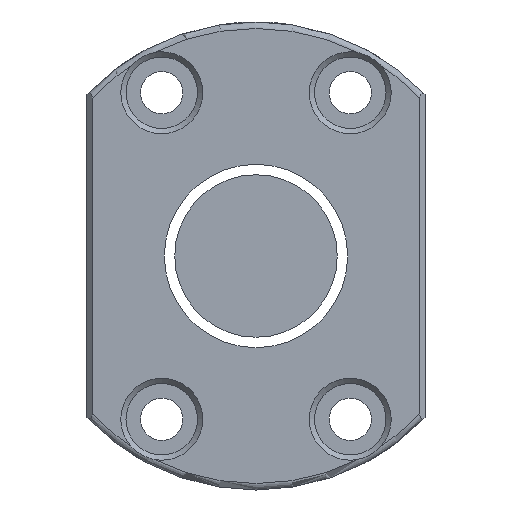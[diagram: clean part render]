
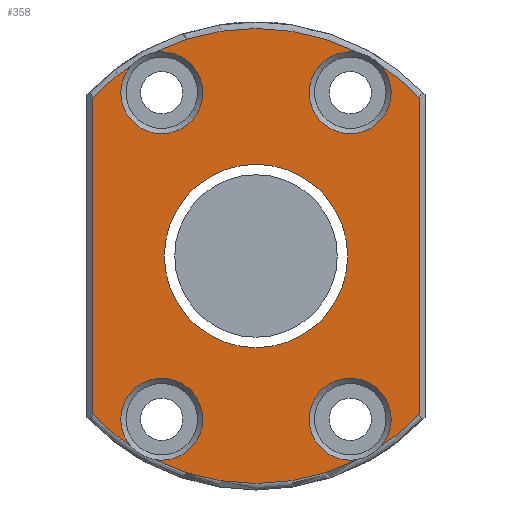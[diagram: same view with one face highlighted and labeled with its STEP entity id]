
A CAD part, left-side view. The second image highlights one B-rep face of the part: STEP entity #358.
In plain terms, the highlighted planar face has unit normal (-1, 0, 0).
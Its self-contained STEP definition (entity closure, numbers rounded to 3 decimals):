
#2 = DIRECTION ( 'NONE',  ( 0., -1., 0. ) ) ;
#107 = LINE ( 'NONE', #2327, #783 ) ;
#141 = ORIENTED_EDGE ( 'NONE', *, *, #1939, .T. ) ;
#240 = CARTESIAN_POINT ( 'NONE',  ( -130., 0., 0. ) ) ;
#272 = DIRECTION ( 'NONE',  ( 1., 0., 0. ) ) ;
#307 = AXIS2_PLACEMENT_3D ( 'NONE', #240, #2997, #1026 ) ;
#327 = CARTESIAN_POINT ( 'NONE',  ( -130., 0., 0. ) ) ;
#333 = DIRECTION ( 'NONE',  ( 1., 0., 0. ) ) ;
#358 = ADVANCED_FACE ( 'NONE', ( #500, #1238 ), #3012, .T. ) ;
#387 = VERTEX_POINT ( 'NONE', #2485 ) ;
#437 = EDGE_CURVE ( 'NONE', #387, #2918, #3074, .T. ) ;
#438 = ORIENTED_EDGE ( 'NONE', *, *, #2813, .T. ) ;
#457 = EDGE_CURVE ( 'NONE', #2442, #1069, #835, .T. ) ;
#500 = FACE_OUTER_BOUND ( 'NONE', #2309, .T. ) ;
#579 = CARTESIAN_POINT ( 'NONE',  ( -130., 14.5, 25.115 ) ) ;
#616 = ORIENTED_EDGE ( 'NONE', *, *, #1756, .T. ) ;
#639 = CARTESIAN_POINT ( 'NONE',  ( -130., 0., 0. ) ) ;
#643 = DIRECTION ( 'NONE',  ( -1., 0., 0. ) ) ;
#678 = VERTEX_POINT ( 'NONE', #1101 ) ;
#702 = ORIENTED_EDGE ( 'NONE', *, *, #3045, .T. ) ;
#738 = CIRCLE ( 'NONE', #1102, 35. ) ;
#776 = ORIENTED_EDGE ( 'NONE', *, *, #2417, .T. ) ;
#778 = DIRECTION ( 'NONE',  ( 0., -1., 0. ) ) ;
#783 = VECTOR ( 'NONE', #1588, 1000. ) ;
#785 = VECTOR ( 'NONE', #3236, 1000. ) ;
#835 = CIRCLE ( 'NONE', #949, 6.3 ) ;
#843 = DIRECTION ( 'NONE',  ( 1., 0., 0. ) ) ;
#850 = VERTEX_POINT ( 'NONE', #930 ) ;
#877 = CARTESIAN_POINT ( 'NONE',  ( -130., 0., 0. ) ) ;
#889 = CARTESIAN_POINT ( 'NONE',  ( -130., 0., 0. ) ) ;
#930 = CARTESIAN_POINT ( 'NONE',  ( -130., 15.641, -31.31 ) ) ;
#949 = AXIS2_PLACEMENT_3D ( 'NONE', #2983, #272, #1010 ) ;
#954 = AXIS2_PLACEMENT_3D ( 'NONE', #889, #2875, #3120 ) ;
#1002 = CIRCLE ( 'NONE', #1361, 35. ) ;
#1010 = DIRECTION ( 'NONE',  ( 0., -1., 0. ) ) ;
#1026 = DIRECTION ( 'NONE',  ( 0., -1., 0. ) ) ;
#1032 = DIRECTION ( 'NONE',  ( -1., 0., 0. ) ) ;
#1069 = VERTEX_POINT ( 'NONE', #1900 ) ;
#1101 = CARTESIAN_POINT ( 'NONE',  ( -130., 19.295, 29.201 ) ) ;
#1102 = AXIS2_PLACEMENT_3D ( 'NONE', #327, #1341, #1636 ) ;
#1107 = VERTEX_POINT ( 'NONE', #2349 ) ;
#1166 = AXIS2_PLACEMENT_3D ( 'NONE', #1807, #3002, #2 ) ;
#1211 = CIRCLE ( 'NONE', #954, 35. ) ;
#1238 = FACE_BOUND ( 'NONE', #2137, .T. ) ;
#1304 = AXIS2_PLACEMENT_3D ( 'NONE', #579, #333, #3113 ) ;
#1341 = DIRECTION ( 'NONE',  ( -1., 0., 0. ) ) ;
#1361 = AXIS2_PLACEMENT_3D ( 'NONE', #2725, #1032, #2990 ) ;
#1362 = EDGE_CURVE ( 'NONE', #1107, #1603, #107, .T. ) ;
#1400 = VERTEX_POINT ( 'NONE', #1860 ) ;
#1452 = CARTESIAN_POINT ( 'NONE',  ( -130., 15.641, 31.31 ) ) ;
#1497 = CARTESIAN_POINT ( 'NONE',  ( -130., -25.2, -24.289 ) ) ;
#1524 = VERTEX_POINT ( 'NONE', #2401 ) ;
#1552 = DIRECTION ( 'NONE',  ( 0., 1., 0. ) ) ;
#1558 = AXIS2_PLACEMENT_3D ( 'NONE', #1683, #2676, #2829 ) ;
#1588 = DIRECTION ( 'NONE',  ( 0., 0., -1. ) ) ;
#1603 = VERTEX_POINT ( 'NONE', #3188 ) ;
#1621 = CIRCLE ( 'NONE', #1304, 6.3 ) ;
#1632 = DIRECTION ( 'NONE',  ( 1., 0., 0. ) ) ;
#1636 = DIRECTION ( 'NONE',  ( 0., -1., 0. ) ) ;
#1649 = DIRECTION ( 'NONE',  ( 0., -1., 0. ) ) ;
#1660 = ORIENTED_EDGE ( 'NONE', *, *, #457, .T. ) ;
#1683 = CARTESIAN_POINT ( 'NONE',  ( -130., 14.5, -25.115 ) ) ;
#1756 = EDGE_CURVE ( 'NONE', #1524, #850, #1884, .T. ) ;
#1783 = EDGE_CURVE ( 'NONE', #2918, #1400, #2037, .T. ) ;
#1807 = CARTESIAN_POINT ( 'NONE',  ( -130., 0., 0. ) ) ;
#1839 = VERTEX_POINT ( 'NONE', #1452 ) ;
#1860 = CARTESIAN_POINT ( 'NONE',  ( -130., -15.641, 31.31 ) ) ;
#1866 = VERTEX_POINT ( 'NONE', #2590 ) ;
#1877 = VERTEX_POINT ( 'NONE', #1497 ) ;
#1884 = CIRCLE ( 'NONE', #1558, 6.3 ) ;
#1888 = DIRECTION ( 'NONE',  ( 0., -1., 0. ) ) ;
#1900 = CARTESIAN_POINT ( 'NONE',  ( -130., -19.295, -29.201 ) ) ;
#1903 = CARTESIAN_POINT ( 'NONE',  ( -130., -14.5, 25.115 ) ) ;
#1939 = EDGE_CURVE ( 'NONE', #1877, #387, #1982, .T. ) ;
#1982 = LINE ( 'NONE', #2952, #785 ) ;
#2037 = CIRCLE ( 'NONE', #2763, 6.3 ) ;
#2038 = ORIENTED_EDGE ( 'NONE', *, *, #3009, .T. ) ;
#2137 = EDGE_LOOP ( 'NONE', ( #2885 ) ) ;
#2309 = EDGE_LOOP ( 'NONE', ( #141, #2395, #3075, #2391, #702, #776, #2360, #3130, #616, #438, #1660, #2038 ) ) ;
#2327 = CARTESIAN_POINT ( 'NONE',  ( -130., 25.2, -24.9 ) ) ;
#2349 = CARTESIAN_POINT ( 'NONE',  ( -130., 25.2, 24.289 ) ) ;
#2360 = ORIENTED_EDGE ( 'NONE', *, *, #1362, .T. ) ;
#2391 = ORIENTED_EDGE ( 'NONE', *, *, #3183, .T. ) ;
#2395 = ORIENTED_EDGE ( 'NONE', *, *, #437, .T. ) ;
#2401 = CARTESIAN_POINT ( 'NONE',  ( -130., 19.295, -29.201 ) ) ;
#2407 = CIRCLE ( 'NONE', #1166, 35. ) ;
#2412 = EDGE_CURVE ( 'NONE', #1603, #1524, #738, .T. ) ;
#2417 = EDGE_CURVE ( 'NONE', #678, #1107, #2551, .T. ) ;
#2442 = VERTEX_POINT ( 'NONE', #2846 ) ;
#2485 = CARTESIAN_POINT ( 'NONE',  ( -130., -25.2, 24.289 ) ) ;
#2500 = CARTESIAN_POINT ( 'NONE',  ( -130., 36., 0. ) ) ;
#2551 = CIRCLE ( 'NONE', #2609, 35. ) ;
#2590 = CARTESIAN_POINT ( 'NONE',  ( -130., 14.1, 0. ) ) ;
#2609 = AXIS2_PLACEMENT_3D ( 'NONE', #877, #643, #1888 ) ;
#2676 = DIRECTION ( 'NONE',  ( 1., 0., 0. ) ) ;
#2725 = CARTESIAN_POINT ( 'NONE',  ( -130., 0., 0. ) ) ;
#2763 = AXIS2_PLACEMENT_3D ( 'NONE', #1903, #843, #1649 ) ;
#2799 = CARTESIAN_POINT ( 'NONE',  ( -130., -19.295, 29.201 ) ) ;
#2813 = EDGE_CURVE ( 'NONE', #850, #2442, #1002, .T. ) ;
#2829 = DIRECTION ( 'NONE',  ( 0., -1., 0. ) ) ;
#2846 = CARTESIAN_POINT ( 'NONE',  ( -130., -15.641, -31.31 ) ) ;
#2875 = DIRECTION ( 'NONE',  ( -1., 0., 0. ) ) ;
#2885 = ORIENTED_EDGE ( 'NONE', *, *, #3013, .T. ) ;
#2918 = VERTEX_POINT ( 'NONE', #2799 ) ;
#2952 = CARTESIAN_POINT ( 'NONE',  ( -130., -25.2, 24.9 ) ) ;
#2983 = CARTESIAN_POINT ( 'NONE',  ( -130., -14.5, -25.115 ) ) ;
#2990 = DIRECTION ( 'NONE',  ( 0., -1., 0. ) ) ;
#2997 = DIRECTION ( 'NONE',  ( -1., 0., 0. ) ) ;
#3002 = DIRECTION ( 'NONE',  ( -1., 0., 0. ) ) ;
#3009 = EDGE_CURVE ( 'NONE', #1069, #1877, #1211, .T. ) ;
#3012 = PLANE ( 'NONE',  #3091 ) ;
#3013 = EDGE_CURVE ( 'NONE', #1866, #1866, #3137, .T. ) ;
#3028 = AXIS2_PLACEMENT_3D ( 'NONE', #639, #1632, #1552 ) ;
#3045 = EDGE_CURVE ( 'NONE', #1839, #678, #1621, .T. ) ;
#3074 = CIRCLE ( 'NONE', #307, 35. ) ;
#3075 = ORIENTED_EDGE ( 'NONE', *, *, #1783, .T. ) ;
#3091 = AXIS2_PLACEMENT_3D ( 'NONE', #2500, #3233, #778 ) ;
#3113 = DIRECTION ( 'NONE',  ( 0., -1., 0. ) ) ;
#3120 = DIRECTION ( 'NONE',  ( 0., -1., 0. ) ) ;
#3130 = ORIENTED_EDGE ( 'NONE', *, *, #2412, .T. ) ;
#3137 = CIRCLE ( 'NONE', #3028, 14.1 ) ;
#3183 = EDGE_CURVE ( 'NONE', #1400, #1839, #2407, .T. ) ;
#3188 = CARTESIAN_POINT ( 'NONE',  ( -130., 25.2, -24.289 ) ) ;
#3233 = DIRECTION ( 'NONE',  ( -1., 0., 0. ) ) ;
#3236 = DIRECTION ( 'NONE',  ( 0., 0., 1. ) ) ;
